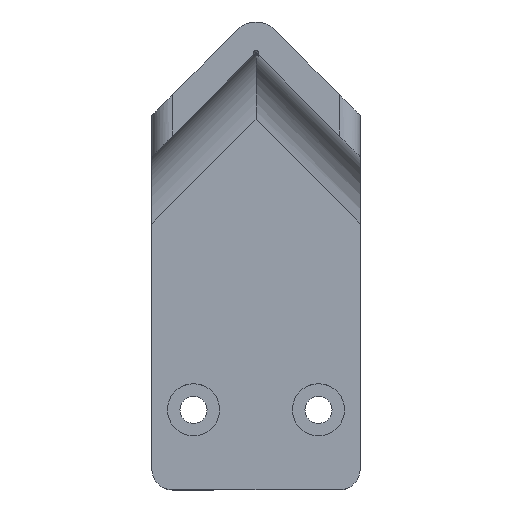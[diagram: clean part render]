
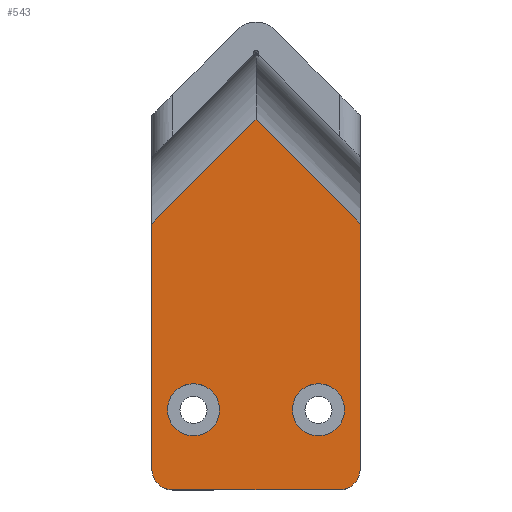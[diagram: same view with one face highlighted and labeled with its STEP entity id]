
A CAD part, top view. The second image highlights one B-rep face of the part: STEP entity #543.
In plain terms, the highlighted planar face has unit normal (0, 0, 1).
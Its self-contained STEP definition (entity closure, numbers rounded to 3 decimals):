
#18=FACE_BOUND('',#190,.T.);
#19=FACE_BOUND('',#191,.T.);
#37=PLANE('',#607);
#62=LINE('',#1102,#103);
#67=LINE('',#1117,#108);
#71=LINE('',#1136,#112);
#72=LINE('',#1139,#113);
#73=LINE('',#1141,#114);
#103=VECTOR('',#689,10.);
#108=VECTOR('',#702,10.);
#112=VECTOR('',#726,10.);
#113=VECTOR('',#731,10.);
#114=VECTOR('',#734,1000.);
#157=FACE_OUTER_BOUND('',#189,.T.);
#189=EDGE_LOOP('',(#455,#456,#457,#458,#459,#460,#461));
#190=EDGE_LOOP('',(#462));
#191=EDGE_LOOP('',(#463));
#219=CIRCLE('',#593,2.);
#222=CIRCLE('',#599,2.);
#223=CIRCLE('',#608,2.5);
#224=CIRCLE('',#609,2.5);
#265=VERTEX_POINT('',#1099);
#266=VERTEX_POINT('',#1101);
#268=VERTEX_POINT('',#1107);
#271=VERTEX_POINT('',#1114);
#272=VERTEX_POINT('',#1116);
#276=VERTEX_POINT('',#1127);
#277=VERTEX_POINT('',#1135);
#278=VERTEX_POINT('',#1142);
#279=VERTEX_POINT('',#1144);
#324=EDGE_CURVE('',#265,#266,#62,.T.);
#327=EDGE_CURVE('',#268,#266,#219,.T.);
#331=EDGE_CURVE('',#271,#272,#67,.T.);
#338=EDGE_CURVE('',#271,#276,#222,.T.);
#341=EDGE_CURVE('',#277,#265,#71,.T.);
#343=EDGE_CURVE('',#272,#277,#72,.T.);
#344=EDGE_CURVE('',#268,#276,#73,.T.);
#345=EDGE_CURVE('',#278,#278,#223,.T.);
#346=EDGE_CURVE('',#279,#279,#224,.T.);
#455=ORIENTED_EDGE('',*,*,#341,.F.);
#456=ORIENTED_EDGE('',*,*,#343,.F.);
#457=ORIENTED_EDGE('',*,*,#331,.F.);
#458=ORIENTED_EDGE('',*,*,#338,.T.);
#459=ORIENTED_EDGE('',*,*,#344,.F.);
#460=ORIENTED_EDGE('',*,*,#327,.T.);
#461=ORIENTED_EDGE('',*,*,#324,.F.);
#462=ORIENTED_EDGE('',*,*,#345,.F.);
#463=ORIENTED_EDGE('',*,*,#346,.F.);
#543=ADVANCED_FACE('',(#157,#18,#19),#37,.T.);
#593=AXIS2_PLACEMENT_3D('',#1108,#695,#696);
#599=AXIS2_PLACEMENT_3D('',#1129,#714,#715);
#607=AXIS2_PLACEMENT_3D('',#1140,#732,#733);
#608=AXIS2_PLACEMENT_3D('',#1143,#735,#736);
#609=AXIS2_PLACEMENT_3D('',#1145,#737,#738);
#689=DIRECTION('',(0.,-1.,0.));
#695=DIRECTION('center_axis',(0.,0.,
1.));
#696=DIRECTION('ref_axis',(0.,-1.,0.));
#702=DIRECTION('',(0.,1.,0.));
#714=DIRECTION('center_axis',(0.,0.,
1.));
#715=DIRECTION('ref_axis',(0.,-1.,0.));
#726=DIRECTION('',(0.707,-0.707,0.));
#731=DIRECTION('',(0.707,0.707,0.));
#732=DIRECTION('center_axis',(0.,0.,
1.));
#733=DIRECTION('ref_axis',(0.,-1.,0.));
#734=DIRECTION('',(-1.,0.,0.));
#735=DIRECTION('center_axis',(0.,0.,
1.));
#736=DIRECTION('ref_axis',(0.,-1.,0.));
#737=DIRECTION('center_axis',(0.,0.,
1.));
#738=DIRECTION('ref_axis',(0.,-1.,0.));
#1099=CARTESIAN_POINT('',(170.,33.636,61.1));
#1101=CARTESIAN_POINT('',(170.,10.1,61.1));
#1102=CARTESIAN_POINT('',(170.,17.3,61.1));
#1107=CARTESIAN_POINT('',(168.,8.1,61.1));
#1108=CARTESIAN_POINT('Origin',(168.,10.1,61.1));
#1114=CARTESIAN_POINT('',(150.,10.1,61.1));
#1116=CARTESIAN_POINT('',(150.,33.636,61.1));
#1117=CARTESIAN_POINT('',(150.,27.65,61.1));
#1127=CARTESIAN_POINT('',(152.,8.1,61.1));
#1129=CARTESIAN_POINT('Origin',(152.,10.1,61.1));
#1135=CARTESIAN_POINT('',(160.,43.636,61.1));
#1136=CARTESIAN_POINT('',(170.493,33.143,61.1));
#1139=CARTESIAN_POINT('',(154.507,38.143,61.1));
#1140=CARTESIAN_POINT('Origin',(160.,15.3,61.1));
#1141=CARTESIAN_POINT('',(160.,8.1,61.1));
#1142=CARTESIAN_POINT('',(166.,18.3,61.1));
#1143=CARTESIAN_POINT('Origin',(166.,15.8,61.1));
#1144=CARTESIAN_POINT('',(154.,18.3,61.1));
#1145=CARTESIAN_POINT('Origin',(154.,15.8,61.1));
